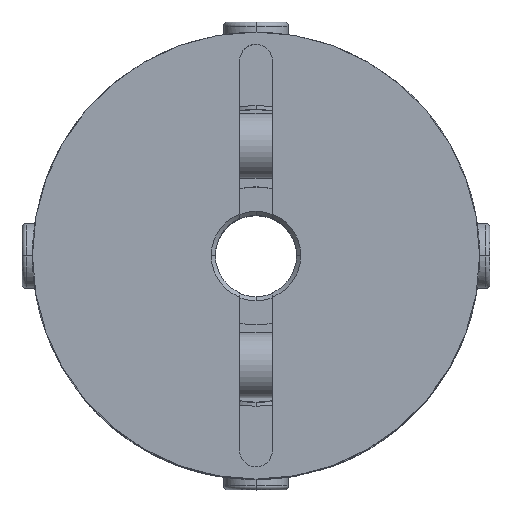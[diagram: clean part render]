
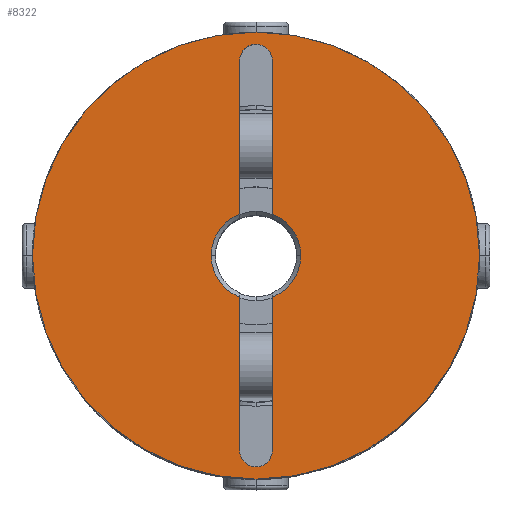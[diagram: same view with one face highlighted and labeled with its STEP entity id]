
A CAD part, top view. The second image highlights one B-rep face of the part: STEP entity #8322.
In plain terms, the highlighted planar face has unit normal (0, 0, 1).
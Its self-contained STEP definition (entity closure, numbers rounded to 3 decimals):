
#632=CARTESIAN_POINT('',(5.5,0.,29.0));
#633=VERTEX_POINT('',#632);
#649=CARTESIAN_POINT('',(2.,-5.123,29.0));
#650=VERTEX_POINT('',#649);
#664=CARTESIAN_POINT('',(0.,0.0,29.0));
#665=DIRECTION('',(0.0,0.0,1.0));
#666=DIRECTION('',(-1.0,0.0,0.0));
#667=AXIS2_PLACEMENT_3D('',#664,#665,#666);
#668=CIRCLE('',#667,5.5);
#669=EDGE_CURVE('',#650,#633,#668,.T.);
#831=CARTESIAN_POINT('',(-5.5,0.,29.0));
#832=VERTEX_POINT('',#831);
#839=CARTESIAN_POINT('',(-2.,-5.123,29.0));
#840=VERTEX_POINT('',#839);
#841=CARTESIAN_POINT('',(0.,0.0,29.0));
#842=DIRECTION('',(0.0,0.0,1.0));
#843=DIRECTION('',(-1.0,0.0,0.0));
#844=AXIS2_PLACEMENT_3D('',#841,#842,#843);
#845=CIRCLE('',#844,5.5);
#846=EDGE_CURVE('',#832,#840,#845,.T.);
#872=CARTESIAN_POINT('',(-1.414,25.414,29.0));
#873=VERTEX_POINT('',#872);
#889=CARTESIAN_POINT('',(2.,24.,29.0));
#890=VERTEX_POINT('',#889);
#897=CARTESIAN_POINT('',(0.,24.,29.0));
#898=DIRECTION('',(0.0,0.0,1.));
#899=DIRECTION('',(0.707,0.707,0.0));
#900=AXIS2_PLACEMENT_3D('',#897,#898,#899);
#901=CIRCLE('',#900,2.);
#902=EDGE_CURVE('',#890,#873,#901,.T.);
#914=CARTESIAN_POINT('',(1.414,-25.414,29.0));
#915=VERTEX_POINT('',#914);
#931=CARTESIAN_POINT('',(-2.,-24.,29.0));
#932=VERTEX_POINT('',#931);
#939=CARTESIAN_POINT('',(0.,-24.,29.0));
#940=DIRECTION('',(0.0,0.0,1.0));
#941=DIRECTION('',(-0.707,-0.707,0.0));
#942=AXIS2_PLACEMENT_3D('',#939,#940,#941);
#943=CIRCLE('',#942,2.0);
#944=EDGE_CURVE('',#932,#915,#943,.T.);
#1499=CARTESIAN_POINT('',(-27.5,0.,29.0));
#1500=VERTEX_POINT('',#1499);
#1507=CARTESIAN_POINT('',(27.5,0.0,29.0));
#1508=VERTEX_POINT('',#1507);
#1509=CARTESIAN_POINT('',(0.,0.0,29.0));
#1510=DIRECTION('',(0.0,0.0,-1.0));
#1511=DIRECTION('',(1.0,0.0,0.0));
#1512=AXIS2_PLACEMENT_3D('',#1509,#1510,#1511);
#1513=CIRCLE('',#1512,27.5);
#1514=EDGE_CURVE('',#1500,#1508,#1513,.T.);
#7523=CARTESIAN_POINT('',(0.,0.0,29.0));
#7524=DIRECTION('',(0.0,0.0,-1.0));
#7525=DIRECTION('',(1.0,0.0,0.0));
#7526=AXIS2_PLACEMENT_3D('',#7523,#7524,#7525);
#7527=CIRCLE('',#7526,27.5);
#7528=EDGE_CURVE('',#1508,#1500,#7527,.T.);
#8081=CARTESIAN_POINT('',(2.,-24.,29.0));
#8082=VERTEX_POINT('',#8081);
#8083=CARTESIAN_POINT('',(0.,-24.,29.0));
#8084=DIRECTION('',(0.0,0.0,1.0));
#8085=DIRECTION('',(-0.707,-0.707,0.0));
#8086=AXIS2_PLACEMENT_3D('',#8083,#8084,#8085);
#8087=CIRCLE('',#8086,2.0);
#8088=EDGE_CURVE('',#915,#8082,#8087,.T.);
#8106=CARTESIAN_POINT('',(2.,-5.123,29.0));
#8107=DIRECTION('',(0.0,-1.0,0.0));
#8108=VECTOR('',#8107,18.877);
#8109=LINE('',#8106,#8108);
#8110=EDGE_CURVE('',#650,#8082,#8109,.T.);
#8129=CARTESIAN_POINT('',(-2.,24.,29.0));
#8130=VERTEX_POINT('',#8129);
#8131=CARTESIAN_POINT('',(0.,24.,29.0));
#8132=DIRECTION('',(0.0,0.0,1.));
#8133=DIRECTION('',(0.707,0.707,0.0));
#8134=AXIS2_PLACEMENT_3D('',#8131,#8132,#8133);
#8135=CIRCLE('',#8134,2.);
#8136=EDGE_CURVE('',#873,#8130,#8135,.T.);
#8154=CARTESIAN_POINT('',(-2.,5.123,29.0));
#8155=VERTEX_POINT('',#8154);
#8156=CARTESIAN_POINT('',(-2.,5.123,29.0));
#8157=DIRECTION('',(0.0,1.0,0.0));
#8158=VECTOR('',#8157,18.877);
#8159=LINE('',#8156,#8158);
#8160=EDGE_CURVE('',#8155,#8130,#8159,.T.);
#8236=CARTESIAN_POINT('',(2.,5.123,29.0));
#8237=VERTEX_POINT('',#8236);
#8251=CARTESIAN_POINT('',(2.,24.,29.0));
#8252=DIRECTION('',(0.0,-1.0,0.0));
#8253=VECTOR('',#8252,18.877);
#8254=LINE('',#8251,#8253);
#8255=EDGE_CURVE('',#890,#8237,#8254,.T.);
#8274=CARTESIAN_POINT('',(-2.,-24.,29.0));
#8275=DIRECTION('',(0.0,1.0,0.0));
#8276=VECTOR('',#8275,18.877);
#8277=LINE('',#8274,#8276);
#8278=EDGE_CURVE('',#932,#840,#8277,.T.);
#8287=CARTESIAN_POINT('',(2.5,0.,29.0));
#8288=DIRECTION('',(0.0,0.0,1.0));
#8289=DIRECTION('',(1.0,0.0,0.0));
#8290=AXIS2_PLACEMENT_3D('',#8287,#8288,#8289);
#8291=PLANE('',#8290);
#8292=ORIENTED_EDGE('',*,*,#7528,.F.);
#8293=ORIENTED_EDGE('',*,*,#1514,.F.);
#8294=EDGE_LOOP('',(#8292,#8293));
#8295=FACE_OUTER_BOUND('',#8294,.T.);
#8296=ORIENTED_EDGE('',*,*,#8110,.T.);
#8297=ORIENTED_EDGE('',*,*,#8088,.F.);
#8298=ORIENTED_EDGE('',*,*,#944,.F.);
#8299=ORIENTED_EDGE('',*,*,#8278,.T.);
#8300=ORIENTED_EDGE('',*,*,#846,.F.);
#8301=CARTESIAN_POINT('',(0.,0.0,29.0));
#8302=DIRECTION('',(0.0,0.0,1.0));
#8303=DIRECTION('',(-1.0,0.0,0.0));
#8304=AXIS2_PLACEMENT_3D('',#8301,#8302,#8303);
#8305=CIRCLE('',#8304,5.5);
#8306=EDGE_CURVE('',#8155,#832,#8305,.T.);
#8307=ORIENTED_EDGE('',*,*,#8306,.F.);
#8308=ORIENTED_EDGE('',*,*,#8160,.T.);
#8309=ORIENTED_EDGE('',*,*,#8136,.F.);
#8310=ORIENTED_EDGE('',*,*,#902,.F.);
#8311=ORIENTED_EDGE('',*,*,#8255,.T.);
#8312=CARTESIAN_POINT('',(0.,0.0,29.0));
#8313=DIRECTION('',(0.0,0.0,1.0));
#8314=DIRECTION('',(-1.0,0.0,0.0));
#8315=AXIS2_PLACEMENT_3D('',#8312,#8313,#8314);
#8316=CIRCLE('',#8315,5.5);
#8317=EDGE_CURVE('',#633,#8237,#8316,.T.);
#8318=ORIENTED_EDGE('',*,*,#8317,.F.);
#8319=ORIENTED_EDGE('',*,*,#669,.F.);
#8320=EDGE_LOOP('',(#8296,#8297,#8298,#8299,#8300,#8307,#8308,#8309,#8310,#8311,#8318,#8319));
#8321=FACE_BOUND('',#8320,.T.);
#8322=ADVANCED_FACE('',(#8295,#8321),#8291,.T.);
